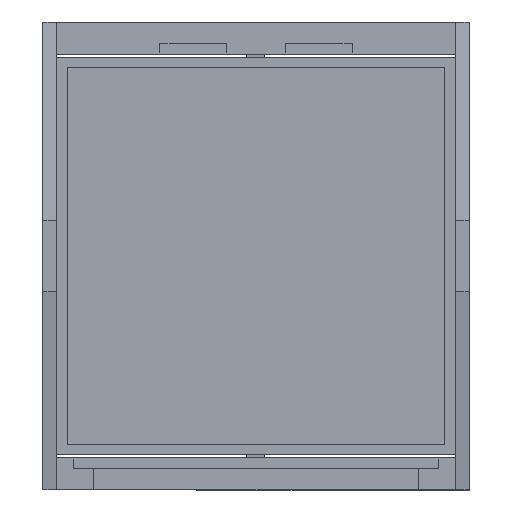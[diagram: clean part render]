
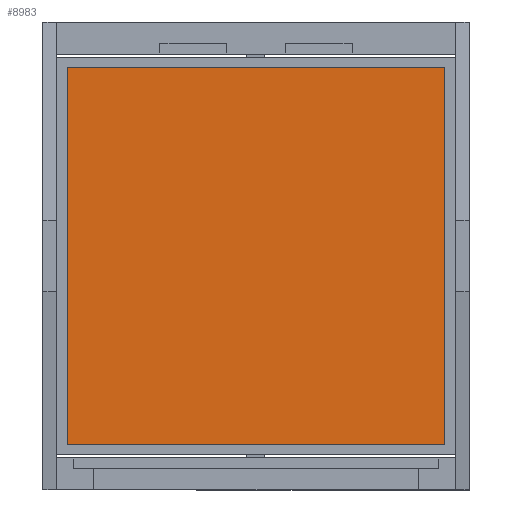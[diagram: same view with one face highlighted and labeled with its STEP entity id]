
A CAD part, front view. The second image highlights one B-rep face of the part: STEP entity #8983.
In plain terms, the highlighted planar face has unit normal (0, -1, 0).
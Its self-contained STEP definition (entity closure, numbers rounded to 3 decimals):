
#243 = LINE ( 'NONE', #1830, #2313 ) ;
#777 = DIRECTION ( 'NONE',  ( 0., 0., 1. ) ) ;
#874 = VECTOR ( 'NONE', #3991, 1000. ) ;
#1170 = CARTESIAN_POINT ( 'NONE',  ( -29.237, -5.415, 28.467 ) ) ;
#1265 = CARTESIAN_POINT ( 'NONE',  ( -29.237, -5.415, -11.533 ) ) ;
#1267 = EDGE_CURVE ( 'NONE', #4670, #4644, #3317, .T. ) ;
#1807 = VECTOR ( 'NONE', #8596, 1000. ) ;
#1830 = CARTESIAN_POINT ( 'NONE',  ( -29.237, -5.415, -11.533 ) ) ;
#2313 = VECTOR ( 'NONE', #4050, 1000. ) ;
#2334 = PLANE ( 'NONE',  #4703 ) ;
#2513 = LINE ( 'NONE', #3281, #874 ) ;
#2659 = VERTEX_POINT ( 'NONE', #5348 ) ;
#2724 = EDGE_CURVE ( 'NONE', #2659, #6650, #243, .T. ) ;
#2919 = ORIENTED_EDGE ( 'NONE', *, *, #6663, .F. ) ;
#3101 = CARTESIAN_POINT ( 'NONE',  ( -29.237, -5.415, 28.467 ) ) ;
#3281 = CARTESIAN_POINT ( 'NONE',  ( 10.763, -5.415, -11.533 ) ) ;
#3317 = LINE ( 'NONE', #6843, #3626 ) ;
#3626 = VECTOR ( 'NONE', #7044, 1000. ) ;
#3871 = EDGE_LOOP ( 'NONE', ( #2919, #4406, #8708, #6830 ) ) ;
#3991 = DIRECTION ( 'NONE',  ( 0., 0., -1. ) ) ;
#4050 = DIRECTION ( 'NONE',  ( -1., 0., 0. ) ) ;
#4406 = ORIENTED_EDGE ( 'NONE', *, *, #2724, .F. ) ;
#4644 = VERTEX_POINT ( 'NONE', #9280 ) ;
#4670 = VERTEX_POINT ( 'NONE', #1170 ) ;
#4703 = AXIS2_PLACEMENT_3D ( 'NONE', #3101, #5261, #777 ) ;
#5261 = DIRECTION ( 'NONE',  ( 0., 1., 0. ) ) ;
#5348 = CARTESIAN_POINT ( 'NONE',  ( 10.763, -5.415, -11.533 ) ) ;
#6354 = EDGE_CURVE ( 'NONE', #4644, #2659, #2513, .T. ) ;
#6650 = VERTEX_POINT ( 'NONE', #8643 ) ;
#6663 = EDGE_CURVE ( 'NONE', #6650, #4670, #7874, .T. ) ;
#6830 = ORIENTED_EDGE ( 'NONE', *, *, #1267, .F. ) ;
#6843 = CARTESIAN_POINT ( 'NONE',  ( -29.237, -5.415, 28.467 ) ) ;
#7044 = DIRECTION ( 'NONE',  ( 1., 0., 0. ) ) ;
#7424 = FACE_OUTER_BOUND ( 'NONE', #3871, .T. ) ;
#7874 = LINE ( 'NONE', #1265, #1807 ) ;
#8596 = DIRECTION ( 'NONE',  ( 0., 0., 1. ) ) ;
#8643 = CARTESIAN_POINT ( 'NONE',  ( -29.237, -5.415, -11.533 ) ) ;
#8708 = ORIENTED_EDGE ( 'NONE', *, *, #6354, .F. ) ;
#8983 = ADVANCED_FACE ( 'NONE', ( #7424 ), #2334, .F. ) ;
#9280 = CARTESIAN_POINT ( 'NONE',  ( 10.763, -5.415, 28.467 ) ) ;
